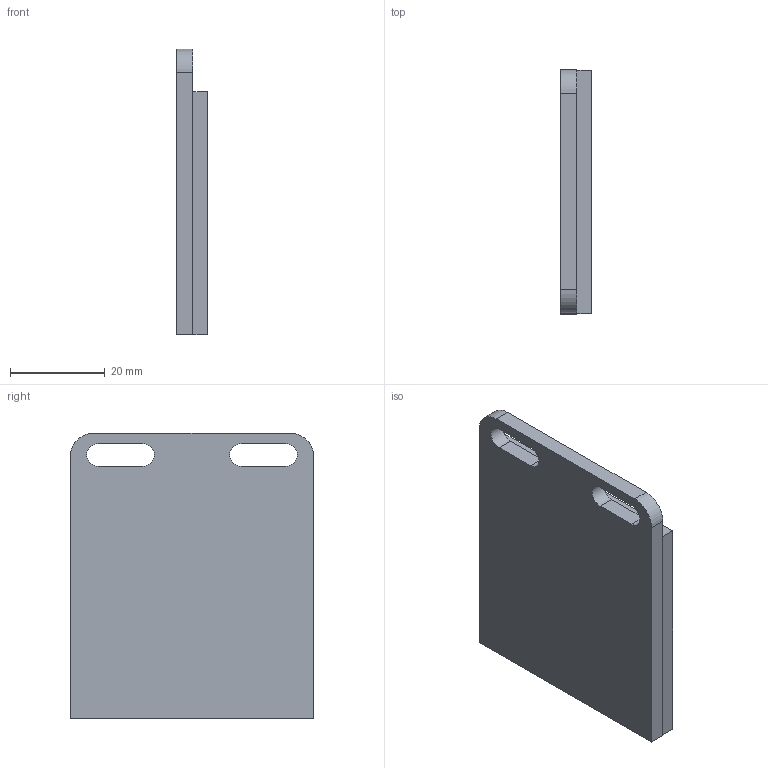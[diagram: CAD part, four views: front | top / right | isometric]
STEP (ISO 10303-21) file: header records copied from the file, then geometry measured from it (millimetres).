
FILE_DESCRIPTION( ( 'Unknown' ), '1' );
FILE_NAME( 'X:/SolidEdge/Models/Dokumentationen/Opto/Reflektoren/vereinfachte Modelle/Neutralformate/FTDR 048U048.stp', 'Unknown', ( 'Unknown' ), ( 'Unknown' ), 'PSStep 19.0.9', 'Unknown', ' ' );
FILE_SCHEMA( ( 'AUTOMOTIVE_DESIGN { 1 0 10303 214 1 1 1 1 }' ) );
Length unit declared in the file: millimetre
Products named in the file (1): 1210410d
Bounding box: 6.4 x 51.4 x 60.3 mm (x, y, z)
Volume: 17947.4 mm3; surface area: 7514.8 mm2
Topology: 1 solids, 1 shells, 26 faces, 66 edges, 44 vertices
Faces by surface type: plane 20, cylinder 6
Entity records: 1014 total; most frequent: CARTESIAN_POINT 137, DIRECTION 132, ORIENTED_EDGE 132, EDGE_CURVE 66, LINE 54, VECTOR 54, VERTEX_POINT 44, AXIS2_PLACEMENT_3D 39
